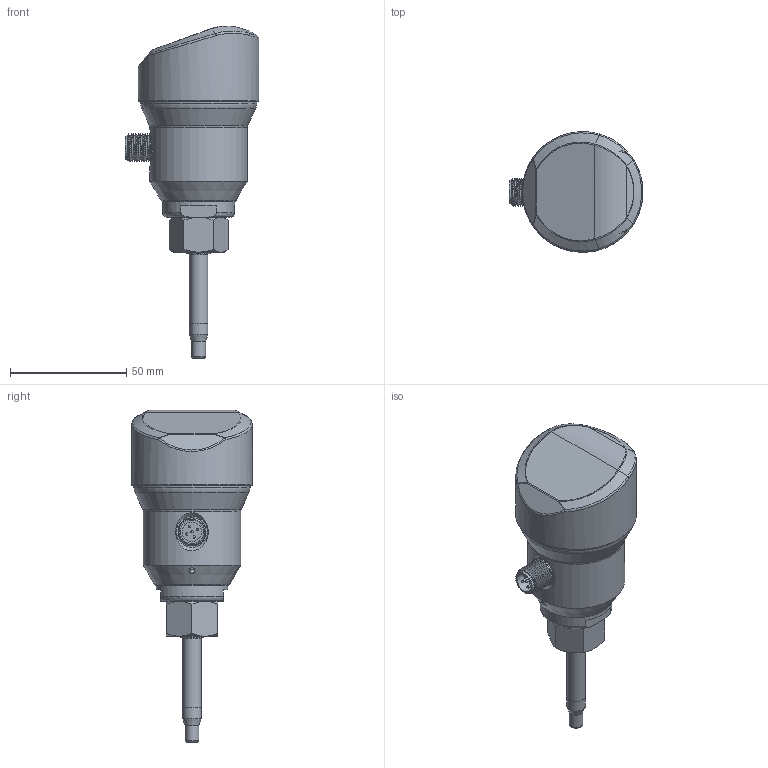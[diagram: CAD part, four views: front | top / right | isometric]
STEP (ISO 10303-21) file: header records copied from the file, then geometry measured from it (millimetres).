
FILE_DESCRIPTION( (''), '2;1');
FILE_NAME( 'QEKE_M18_L60.step', '2026-05-27T08:31:59+08:00', (''), (''), '', '', '');
FILE_SCHEMA (('AUTOMOTIVE_DESIGN { 1 0 10303 214 3 1 1 1 }'));
Length unit declared in the file: millimetre
Products named in the file (1): QEKE M18_L60
Bounding box: 57.7 x 51.98 x 143.07 mm (x, y, z)
Volume: 64650.7 mm3; surface area: 76848.3 mm2
Topology: 18 solids, 18 shells, 1326 faces, 3599 edges, 2352 vertices
Faces by surface type: plane 794, cylinder 271, bspline 103, cone 94, torus 41, sphere 19, extrusion 4
Full cylindrical faces by diameter (mm): 1 x10, 2.5 x1, 2.7 x5, 3.1 x1, 3.5 x2, 6 x2, 6.5 x1, 7 x1, 8 x3, 8.4 x1, 9.7 x1, 9.8 x1, 10.1 x1, 11 x1, 11.6 x2, 12 x2, 13.4 x1, 13.7 x1, 15.4 x1, 16.1 x1, 16.5 x6, 23 x3, 26.1 x5, 31 x1, 37 x1, 42 x1, 44.1 x2, 45.7 x1, 46.576 x1, 46.8 x2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
Entity records: 48085 total; most frequent: CARTESIAN_POINT 15409, ORIENTED_EDGE 6806, DIRECTION 6128, EDGE_CURVE 3403, VERTEX_POINT 2288, AXIS2_PLACEMENT_3D 2104, VECTOR 1920, LINE 1916
